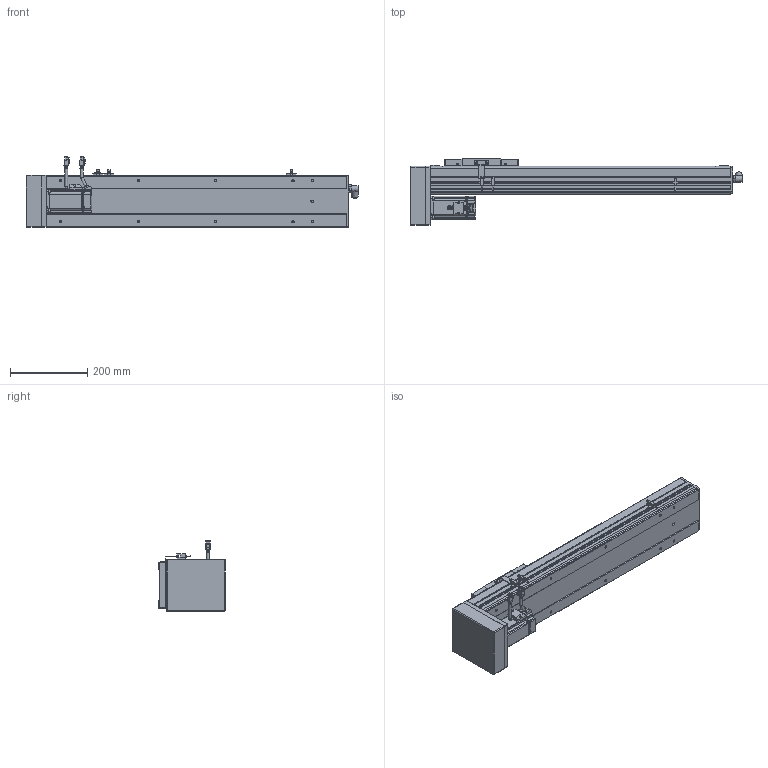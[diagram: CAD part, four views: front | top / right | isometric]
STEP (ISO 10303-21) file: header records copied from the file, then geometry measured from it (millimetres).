
FILE_DESCRIPTION(/* description */ ('STEP AP214'),/* implementation_level */ '2;1');
FILE_NAME(/* name */ 'PSC140-L05-S500-BM-P40-C1-N(0-P)',/* time_stamp */ '2022-06-13T03:20:53+02:00',/* author */ ('License CC BY-ND 4.0'),/* organization */ ('CADENAS'),/* preprocessor_version */ 'ST-DEVELOPER v18.102',/* originating_system */ 'PARTsolutions',/* authorisation */ ' ');
FILE_SCHEMA (('AUTOMOTIVE_DESIGN {1 0 10303 214 3 1 1}'));
Length unit declared in the file: millimetre
Products named in the file (11): PSC140-L05-S500-BM-P40-C1-N(0-P); P40-s2; P40-c2; P40-s1; P40-c1; P40-p1; PSC140-BM-body2; PSC140-sensor; PSC140-BM-SLIDER; PSC140-S500-BM-P40-C1-P_BODY1; PSC140-L05-S500-BM-P40-C1-N(0-P)_dummy
Assembly tree (12 placements, depth 2):
  PSC140-L05-S500-BM-P40-C1-N(0-P)
    P40-s2
    P40-c2
    P40-s1
    P40-c1
    P40-p1
    PSC140-BM-body2
    PSC140-sensor  x3
    PSC140-BM-SLIDER
    PSC140-S500-BM-P40-C1-P_BODY1
    PSC140-L05-S500-BM-P40-C1-N(0-P)_dummy
Bounding box: 858 x 171.5 x 182.48 mm (x, y, z)
Volume: 9246571.8 mm3; surface area: 571006.9 mm2
Topology: 11 solids, 11 shells, 1232 faces, 3185 edges, 2108 vertices
Faces by surface type: plane 860, cylinder 315, cone 38, torus 19
Full cylindrical faces by diameter (mm): 1 x8, 2.6 x10, 2.8 x3, 3.3 x8, 4.5 x12, 4.6 x3, 4.917 x14, 5 x4, 5.5 x8, 6 x11, 7 x10, 9 x2, 10 x1, 11 x1, 12 x1, 13.74 x1, 14 x1, 16.4 x2, 16.5 x1, 36 x1, 50 x2
Entity records: 34152 total; most frequent: CARTESIAN_POINT 5966, DIRECTION 5741, ORIENTED_EDGE 5550, EDGE_CURVE 2775, LINE 2105, VECTOR 2105, VERTEX_POINT 1928, AXIS2_PLACEMENT_3D 1818
